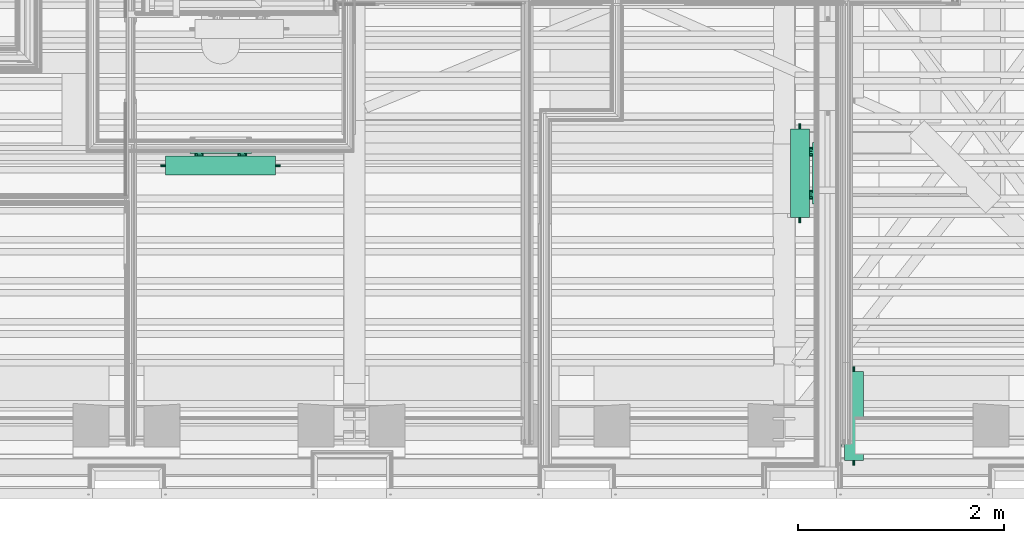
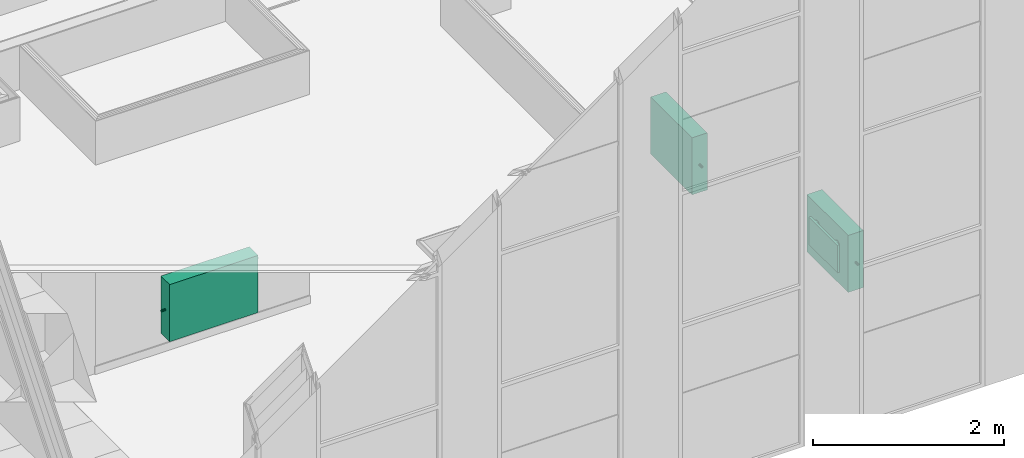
# One storey, part 165 of 183: 3 flow terminals.
"""IFC2X3 building model written with IfcOpenShell, lengths in metres."""

from ifc_helpers import new_model, entity, si_unit, converted_unit, derived_unit, money_unit, direction, frame, origin_with_axes, place, context, subcontext, project, spatial, open_shell, surface_model, material, type_object, element, save


model = new_model("IFC2X3")

# Units and contexts
model_context = context("Model", 3, precision=1e-05, world=origin_with_axes(), true_north=direction((0.0, 1.0)))
body_context = subcontext(model_context, "Body", "Model", "MODEL_VIEW", scale=1.0)
ifc_project = project(units=[si_unit("LENGTHUNIT", "METRE"), si_unit("AREAUNIT", "SQUARE_METRE"), si_unit("VOLUMEUNIT", "CUBIC_METRE"), si_unit("ABSORBEDDOSEUNIT", "GRAY"), si_unit("AMOUNTOFSUBSTANCEUNIT", "MOLE"), si_unit("DOSEEQUIVALENTUNIT", "SIEVERT"), si_unit("ELECTRICCAPACITANCEUNIT", "FARAD"), si_unit("ELECTRICCHARGEUNIT", "COULOMB"), si_unit("ELECTRICCONDUCTANCEUNIT", "SIEMENS"), si_unit("ELECTRICCURRENTUNIT", "AMPERE"), si_unit("ELECTRICRESISTANCEUNIT", "OHM"), si_unit("ELECTRICVOLTAGEUNIT", "VOLT"), si_unit("ENERGYUNIT", "JOULE"), si_unit("FORCEUNIT", "NEWTON"), si_unit("FREQUENCYUNIT", "HERTZ"), si_unit("ILLUMINANCEUNIT", "LUX"), si_unit("INDUCTANCEUNIT", "HENRY"), si_unit("LUMINOUSFLUXUNIT", "LUMEN"), si_unit("LUMINOUSINTENSITYUNIT", "CANDELA"), si_unit("MAGNETICFLUXDENSITYUNIT", "TESLA"), si_unit("MAGNETICFLUXUNIT", "WEBER"), si_unit("MASSUNIT", "GRAM"), converted_unit("PLANEANGLEUNIT", "degree", entity("IfcReal", 0.0174532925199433), si_unit("PLANEANGLEUNIT", "RADIAN"), dimensions=[0, 0, 0, 0, 0, 0, 0]), si_unit("POWERUNIT", "WATT"), si_unit("PRESSUREUNIT", "PASCAL"), si_unit("RADIOACTIVITYUNIT", "BECQUEREL"), si_unit("SOLIDANGLEUNIT", "STERADIAN"), si_unit("THERMODYNAMICTEMPERATUREUNIT", "KELVIN"), si_unit("TIMEUNIT", "SECOND"), derived_unit("ACCELERATIONUNIT", [(si_unit("LENGTHUNIT", "METRE"), 1), (si_unit("TIMEUNIT", "SECOND"), -2)]), derived_unit("ANGULARVELOCITYUNIT", [(converted_unit("PLANEANGLEUNIT", "degree", entity("IfcReal", 0.0174532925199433), si_unit("PLANEANGLEUNIT", "RADIAN"), dimensions=[0, 0, 0, 0, 0, 0, 0]), 1), (si_unit("TIMEUNIT", "SECOND"), -1)]), derived_unit("CURVATUREUNIT", [(converted_unit("PLANEANGLEUNIT", "degree", entity("IfcReal", 0.0174532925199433), si_unit("PLANEANGLEUNIT", "RADIAN"), dimensions=[0, 0, 0, 0, 0, 0, 0]), 1), (si_unit("LENGTHUNIT", "METRE"), -1)]), derived_unit("DYNAMICVISCOSITYUNIT", [(si_unit("PRESSUREUNIT", "PASCAL"), 1), (si_unit("TIMEUNIT", "SECOND"), 1)]), derived_unit("HEATFLUXDENSITYUNIT", [(si_unit("POWERUNIT", "WATT"), 1), (si_unit("LENGTHUNIT", "METRE"), -2)]), derived_unit("HEATINGVALUEUNIT", [(si_unit("ENERGYUNIT", "JOULE"), 1), (si_unit("MASSUNIT", "GRAM"), -1)]), derived_unit("INTEGERCOUNTRATEUNIT", [(si_unit("TIMEUNIT", "SECOND"), -1)]), derived_unit("IONCONCENTRATIONUNIT", [(si_unit("MASSUNIT", "GRAM"), 1), (si_unit("VOLUMEUNIT", "CUBIC_METRE"), -1)]), derived_unit("ISOTHERMALMOISTURECAPACITYUNIT", [(si_unit("VOLUMEUNIT", "CUBIC_METRE"), 1), (si_unit("MASSUNIT", "GRAM"), -1)]), derived_unit("KINEMATICVISCOSITYUNIT", [(si_unit("AREAUNIT", "SQUARE_METRE"), 1), (si_unit("TIMEUNIT", "SECOND"), -1)]), derived_unit("LINEARFORCEUNIT", [(si_unit("FORCEUNIT", "NEWTON"), 1), (si_unit("LENGTHUNIT", "METRE"), -1)]), derived_unit("LINEARMOMENTUNIT", [(si_unit("FORCEUNIT", "NEWTON"), 1), (si_unit("LENGTHUNIT", "METRE"), -1)]), derived_unit("LINEARSTIFFNESSUNIT", [(si_unit("FORCEUNIT", "NEWTON"), 1), (si_unit("LENGTHUNIT", "METRE"), -1)]), derived_unit("LINEARVELOCITYUNIT", [(si_unit("LENGTHUNIT", "METRE"), 1), (si_unit("TIMEUNIT", "SECOND"), -1)]), derived_unit("LUMINOUSINTENSITYDISTRIBUTIONUNIT", [(si_unit("LUMINOUSINTENSITYUNIT", "CANDELA"), 1), (si_unit("LUMINOUSFLUXUNIT", "LUMEN"), -1)]), derived_unit("MASSDENSITYUNIT", [(si_unit("MASSUNIT", "GRAM"), 1), (si_unit("VOLUMEUNIT", "CUBIC_METRE"), -1)]), derived_unit("MASSFLOWRATEUNIT", [(si_unit("MASSUNIT", "GRAM"), 1), (si_unit("TIMEUNIT", "SECOND"), -1)]), derived_unit("MASSPERLENGTHUNIT", [(si_unit("MASSUNIT", "GRAM"), 1), (si_unit("LENGTHUNIT", "METRE"), -1)]), derived_unit("MODULUSOFELASTICITYUNIT", [(si_unit("FORCEUNIT", "NEWTON"), 1), (si_unit("AREAUNIT", "SQUARE_METRE"), -1)]), derived_unit("MODULUSOFLINEARSUBGRADEREACTIONUNIT", [(si_unit("FORCEUNIT", "NEWTON"), 1), (si_unit("LENGTHUNIT", "METRE"), -2)]), derived_unit("MODULUSOFROTATIONALSUBGRADEREACTIONUNIT", [(si_unit("FORCEUNIT", "NEWTON"), 1), (si_unit("LENGTHUNIT", "METRE"), 1)]), derived_unit("MODULUSOFSUBGRADEREACTIONUNIT", [(si_unit("FORCEUNIT", "NEWTON"), 1), (si_unit("VOLUMEUNIT", "CUBIC_METRE"), -1)]), derived_unit("MOISTUREDIFFUSIVITYUNIT", [(si_unit("VOLUMEUNIT", "CUBIC_METRE"), 1), (si_unit("TIMEUNIT", "SECOND"), -1)]), derived_unit("MOLECULARWEIGHTUNIT", [(si_unit("MASSUNIT", "GRAM"), 1), (si_unit("AMOUNTOFSUBSTANCEUNIT", "MOLE"), -1)]), derived_unit("PLANARFORCEUNIT", [(si_unit("FORCEUNIT", "NEWTON"), 1), (si_unit("LENGTHUNIT", "METRE"), -2)]), derived_unit("ROTATIONALFREQUENCYUNIT", [(si_unit("TIMEUNIT", "SECOND"), -1)]), derived_unit("ROTATIONALMASSUNIT", [(si_unit("MASSUNIT", "GRAM"), 1), (si_unit("LENGTHUNIT", "METRE"), 2)]), derived_unit("ROTATIONALSTIFFNESSUNIT", [(si_unit("FORCEUNIT", "NEWTON"), 1), (si_unit("LENGTHUNIT", "METRE"), 1), (converted_unit("PLANEANGLEUNIT", "degree", entity("IfcReal", 0.0174532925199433), si_unit("PLANEANGLEUNIT", "RADIAN"), dimensions=[0, 0, 0, 0, 0, 0, 0]), -1)]), derived_unit("SECTIONAREAINTEGRALUNIT", [(si_unit("LENGTHUNIT", "METRE"), 5)]), derived_unit("SECTIONMODULUSUNIT", [(si_unit("LENGTHUNIT", "METRE"), 3)]), derived_unit("SHEARMODULUSUNIT", [(si_unit("FORCEUNIT", "NEWTON"), 1), (si_unit("AREAUNIT", "SQUARE_METRE"), -1)]), derived_unit("SOUNDPOWERUNIT", [(si_unit("ENERGYUNIT", "JOULE"), 1), (si_unit("TIMEUNIT", "SECOND"), -1)]), derived_unit("SPECIFICHEATCAPACITYUNIT", [(si_unit("FORCEUNIT", "NEWTON"), 1), (si_unit("MASSUNIT", "GRAM"), -1), (si_unit("THERMODYNAMICTEMPERATUREUNIT", "KELVIN"), -1)]), derived_unit("TEMPERATUREGRADIENTUNIT", [(si_unit("THERMODYNAMICTEMPERATUREUNIT", "KELVIN"), 1), (si_unit("LENGTHUNIT", "METRE"), -1)]), derived_unit("THERMALADMITTANCEUNIT", [(si_unit("POWERUNIT", "WATT"), 1), (si_unit("AREAUNIT", "SQUARE_METRE"), -1), (si_unit("THERMODYNAMICTEMPERATUREUNIT", "KELVIN"), -1)]), derived_unit("THERMALCONDUCTANCEUNIT", [(si_unit("POWERUNIT", "WATT"), 1), (si_unit("LENGTHUNIT", "METRE"), -1), (si_unit("THERMODYNAMICTEMPERATUREUNIT", "KELVIN"), -1)]), derived_unit("THERMALEXPANSIONCOEFFICIENTUNIT", [(si_unit("THERMODYNAMICTEMPERATUREUNIT", "KELVIN"), -1)]), derived_unit("THERMALRESISTANCEUNIT", [(si_unit("AREAUNIT", "SQUARE_METRE"), 1), (si_unit("POWERUNIT", "WATT"), -1)]), derived_unit("THERMALTRANSMITTANCEUNIT", [(si_unit("POWERUNIT", "WATT"), 1), (si_unit("AREAUNIT", "SQUARE_METRE"), -1), (si_unit("THERMODYNAMICTEMPERATUREUNIT", "KELVIN"), -1)]), derived_unit("TORQUEUNIT", [(si_unit("FORCEUNIT", "NEWTON"), 1), (si_unit("LENGTHUNIT", "METRE"), 1)]), derived_unit("VAPORPERMEABILITYUNIT", [(si_unit("MASSUNIT", "GRAM"), 1), (si_unit("TIMEUNIT", "SECOND"), -1)]), derived_unit("VOLUMETRICFLOWRATEUNIT", [(si_unit("VOLUMEUNIT", "CUBIC_METRE"), 1), (si_unit("TIMEUNIT", "SECOND"), -1)]), derived_unit("WARPINGCONSTANTUNIT", [(si_unit("LENGTHUNIT", "METRE"), 6)]), derived_unit("WARPINGMOMENTUNIT", [(si_unit("FORCEUNIT", "NEWTON"), 1), (si_unit("LENGTHUNIT", "METRE"), 2)]), money_unit("GBP")], contexts=[model_context])

# Site, building, storey, space
site_placement = place(None, origin_with_axes())
site = spatial("IfcSite", under=ifc_project, at=site_placement, Name="Site", CompositionType="ELEMENT")
building_placement = place(site_placement, origin_with_axes())
building = spatial("IfcBuilding", under=site, at=building_placement, Name="Building01", CompositionType="ELEMENT")
storey_placement = place(building_placement, frame((0.0, 0.0, 5.15), z_axis=(0.0, 0.0, 1.0), x_axis=(1.0, 0.0, 0.0)))
storey = spatial("IfcBuildingStorey", under=building, at=storey_placement, Name="1F", CompositionType="ELEMENT", Elevation=5.15)
space_1_placement = place(storey_placement, frame((20.122661, 7.155, 0.017975), z_axis=(0.0, 0.0, 1.0), x_axis=(0.0, -1.0, 0.0)))
space_1 = spatial("IfcSpace", under=storey, at=space_1_placement, Name="studio", CompositionType="ELEMENT", InteriorOrExteriorSpace="NOTDEFINED")

# Flow terminal
ifc_material = material(Name="M_BSUK_Ventilation")
space_heater_type = type_object("IfcSpaceHeaterType", Name="M-BmvRadiatorpanel-Panel", PredefinedType="NOTDEFINED")
flow_terminal_1_placement = place(storey_placement, frame((22.77025, 0.371927, 0.665), z_axis=(0.0, 0.0, 1.0), x_axis=(0.0, 1.0, 0.0)))
element("IfcFlowTerminal", 1, at=flow_terminal_1_placement, inside=space_1, type_object=space_heater_type, material=ifc_material, Name="M-BmvRadiatorpanel-Panel", ObjectType="M-BmvRadiatorpanel-Panel", context=body_context, shape_type="SurfaceModel", body=[
    surface_model("IfcShellBasedSurfaceModel", [(0.865, -0.0925, 0.365), (0.865, 0.0925, 0.365), (0.0, 0.0925, 0.365), (0.0, -0.0925, 0.365), (0.865, -0.0925, -0.365), (0.865, 0.0925, -0.365), (0.0, -0.0925, -0.365), (0.0, 0.0925, -0.365), (0.1325, 0.12025, 0.175), (0.7325, 0.12025, 0.175), (0.7325, 0.14525, 0.175), (0.1325, 0.14525, 0.175), (0.7325, 0.14525, -0.175), (0.1325, 0.14525, -0.175), (0.7325, 0.12025, -0.175), (0.1325, 0.12025, -0.175), (0.2225, 0.0925, 0.0775), (0.2225, 0.12025, 0.0775), (0.239721, 0.12025, 0.080925), (0.239721, 0.0925, 0.080925), (0.25432, 0.12025, 0.09068), (0.25432, 0.0925, 0.09068), (0.264075, 0.12025, 0.105279), (0.264075, 0.0925, 0.105279), (0.2675, 0.12025, 0.1225), (0.2675, 0.0925, 0.1225), (0.264075, 0.12025, 0.139721), (0.264075, 0.0925, 0.139721), (0.25432, 0.12025, 0.15432), (0.25432, 0.0925, 0.15432), (0.239721, 0.12025, 0.164075), (0.239721, 0.0925, 0.164075), (0.2225, 0.12025, 0.1675), (0.2225, 0.0925, 0.1675), (0.205279, 0.12025, 0.164075), (0.205279, 0.0925, 0.164075), (0.19068, 0.12025, 0.15432), (0.19068, 0.0925, 0.15432), (0.180925, 0.12025, 0.139721), (0.180925, 0.0925, 0.139721), (0.1775, 0.12025, 0.1225), (0.1775, 0.0925, 0.1225), (0.180925, 0.12025, 0.105279), (0.180925, 0.0925, 0.105279), (0.19068, 0.12025, 0.09068), (0.19068, 0.0925, 0.09068), (0.205279, 0.12025, 0.080925), (0.205279, 0.0925, 0.080925), (0.6425, 0.0925, 0.0775), (0.6425, 0.12025, 0.0775), (0.659721, 0.12025, 0.080925), (0.659721, 0.0925, 0.080925), (0.67432, 0.12025, 0.09068), (0.67432, 0.0925, 0.09068), (0.684075, 0.12025, 0.105279), (0.684075, 0.0925, 0.105279), (0.6875, 0.12025, 0.1225), (0.6875, 0.0925, 0.1225), (0.684075, 0.12025, 0.139721), (0.684075, 0.0925, 0.139721), (0.67432, 0.12025, 0.15432), (0.67432, 0.0925, 0.15432), (0.659721, 0.12025, 0.164075), (0.659721, 0.0925, 0.164075), (0.6425, 0.12025, 0.1675), (0.6425, 0.0925, 0.1675), (0.625279, 0.12025, 0.164075), (0.625279, 0.0925, 0.164075), (0.61068, 0.12025, 0.15432), (0.61068, 0.0925, 0.15432), (0.600925, 0.12025, 0.139721), (0.600925, 0.0925, 0.139721), (0.5975, 0.12025, 0.1225), (0.5975, 0.0925, 0.1225), (0.600925, 0.12025, 0.105279), (0.600925, 0.0925, 0.105279), (0.61068, 0.12025, 0.09068), (0.61068, 0.0925, 0.09068), (0.625279, 0.12025, 0.080925), (0.625279, 0.0925, 0.080925), (-0.05, 0.0, -0.0225), (0.0, 0.0, -0.0225), (0.0, -0.004784, -0.021548), (-0.05, -0.004784, -0.021548), (0.0, -0.008839, -0.018839), (-0.05, -0.008839, -0.018839), (0.0, -0.011548, -0.014784), (-0.05, -0.011548, -0.014784), (0.0, -0.0125, -0.01), (-0.05, -0.0125, -0.01), (0.0, -0.011548, -0.005216), (-0.05, -0.011548, -0.005216), (0.0, -0.008839, -0.001161), (-0.05, -0.008839, -0.001161), (0.0, -0.004784, 0.001548), (-0.05, -0.004784, 0.001548), (0.0, 0.0, 0.0025), (-0.05, 0.0, 0.0025), (0.0, 0.004784, 0.001548), (-0.05, 0.004784, 0.001548), (0.0, 0.008839, -0.001161), (-0.05, 0.008839, -0.001161), (0.0, 0.011548, -0.005216), (-0.05, 0.011548, -0.005216), (0.0, 0.0125, -0.01), (-0.05, 0.0125, -0.01), (0.0, 0.011548, -0.014784), (-0.05, 0.011548, -0.014784), (0.0, 0.008839, -0.018839), (-0.05, 0.008839, -0.018839), (0.0, 0.004784, -0.021548), (-0.05, 0.004784, -0.021548), (0.915, 0.0, 0.2525), (0.865, 0.0, 0.2525), (0.865, 0.004784, 0.253452), (0.915, 0.004784, 0.253452), (0.865, 0.008839, 0.256161), (0.915, 0.008839, 0.256161), (0.865, 0.011548, 0.260216), (0.915, 0.011548, 0.260216), (0.865, 0.0125, 0.265), (0.915, 0.0125, 0.265), (0.865, 0.011548, 0.269784), (0.915, 0.011548, 0.269784), (0.865, 0.008839, 0.273839), (0.915, 0.008839, 0.273839), (0.865, 0.004784, 0.276548), (0.915, 0.004784, 0.276548), (0.865, 0.0, 0.2775), (0.915, 0.0, 0.2775), (0.865, -0.004784, 0.276548), (0.915, -0.004784, 0.276548), (0.865, -0.008839, 0.273839), (0.915, -0.008839, 0.273839), (0.865, -0.011548, 0.269784), (0.915, -0.011548, 0.269784), (0.865, -0.0125, 0.265), (0.915, -0.0125, 0.265), (0.865, -0.011548, 0.260216), (0.915, -0.011548, 0.260216), (0.865, -0.008839, 0.256161), (0.915, -0.008839, 0.256161), (0.865, -0.004784, 0.253452), (0.915, -0.004784, 0.253452)], [open_shell([[[0, 1, 2, 3]], [[4, 5, 1, 0]], [[6, 7, 5, 4]], [[3, 2, 7, 6]], [[1, 5, 7, 2]], [[3, 6, 4, 0]], [[8, 9, 10, 11]], [[11, 10, 12, 13]], [[13, 12, 14, 15]], [[15, 14, 9, 8]], [[9, 14, 12, 10]], [[11, 13, 15, 8]], [[16, 17, 18, 19]], [[19, 18, 20, 21]], [[21, 20, 22, 23]], [[23, 22, 24, 25]], [[25, 24, 26, 27]], [[27, 26, 28, 29]], [[29, 28, 30, 31]], [[31, 30, 32, 33]], [[33, 32, 34, 35]], [[35, 34, 36, 37]], [[37, 36, 38, 39]], [[39, 38, 40, 41]], [[41, 40, 42, 43]], [[43, 42, 44, 45]], [[45, 44, 46, 47]], [[47, 46, 17, 16]], [[48, 49, 50, 51]], [[51, 50, 52, 53]], [[53, 52, 54, 55]], [[55, 54, 56, 57]], [[57, 56, 58, 59]], [[59, 58, 60, 61]], [[61, 60, 62, 63]], [[63, 62, 64, 65]], [[65, 64, 66, 67]], [[67, 66, 68, 69]], [[69, 68, 70, 71]], [[71, 70, 72, 73]], [[73, 72, 74, 75]], [[75, 74, 76, 77]], [[77, 76, 78, 79]], [[79, 78, 49, 48]], [[80, 81, 82, 83]], [[83, 82, 84, 85]], [[85, 84, 86, 87]], [[87, 86, 88, 89]], [[89, 88, 90, 91]], [[91, 90, 92, 93]], [[93, 92, 94, 95]], [[95, 94, 96, 97]], [[97, 96, 98, 99]], [[99, 98, 100, 101]], [[101, 100, 102, 103]], [[103, 102, 104, 105]], [[105, 104, 106, 107]], [[107, 106, 108, 109]], [[109, 108, 110, 111]], [[111, 110, 81, 80]], [[112, 113, 114, 115]], [[115, 114, 116, 117]], [[117, 116, 118, 119]], [[119, 118, 120, 121]], [[121, 120, 122, 123]], [[123, 122, 124, 125]], [[125, 124, 126, 127]], [[127, 126, 128, 129]], [[129, 128, 130, 131]], [[131, 130, 132, 133]], [[133, 132, 134, 135]], [[135, 134, 136, 137]], [[137, 136, 138, 139]], [[139, 138, 140, 141]], [[141, 140, 142, 143]], [[143, 142, 113, 112]]])]),
])

# Space
space_2_placement = place(storey_placement, frame((20.51, 3.685, 0.017975), z_axis=(0.0, 0.0, 1.0), x_axis=(-1.0, 0.0, 0.0)))
space_2 = spatial("IfcSpace", under=storey, at=space_2_placement, Name="bed", CompositionType="ELEMENT", InteriorOrExteriorSpace="NOTDEFINED")

# Flow terminal
flow_terminal_2_placement = place(storey_placement, frame((22.24475, 2.7335, 0.665), z_axis=(0.0, 0.0, 1.0), x_axis=(0.0, -1.0, 0.0)))
element("IfcFlowTerminal", 2, at=flow_terminal_2_placement, inside=space_2, type_object=space_heater_type, material=ifc_material, Name="M-BmvRadiatorpanel-Panel", ObjectType="M-BmvRadiatorpanel-Panel", context=body_context, shape_type="SurfaceModel", body=[
    surface_model("IfcShellBasedSurfaceModel", [(-0.865, -0.0925, 0.365), (-0.865, 0.0925, 0.365), (0.0, 0.0925, 0.365), (0.0, -0.0925, 0.365), (-0.865, -0.0925, -0.365), (-0.865, 0.0925, -0.365), (0.0, -0.0925, -0.365), (0.0, 0.0925, -0.365), (-0.1325, 0.12025, 0.175), (-0.7325, 0.12025, 0.175), (-0.7325, 0.14525, 0.175), (-0.1325, 0.14525, 0.175), (-0.7325, 0.14525, -0.175), (-0.1325, 0.14525, -0.175), (-0.7325, 0.12025, -0.175), (-0.1325, 0.12025, -0.175), (-0.2225, 0.0925, 0.0775), (-0.2225, 0.12025, 0.0775), (-0.205279, 0.12025, 0.080925), (-0.205279, 0.0925, 0.080925), (-0.19068, 0.12025, 0.09068), (-0.19068, 0.0925, 0.09068), (-0.180925, 0.12025, 0.105279), (-0.180925, 0.0925, 0.105279), (-0.1775, 0.12025, 0.1225), (-0.1775, 0.0925, 0.1225), (-0.180925, 0.12025, 0.139721), (-0.180925, 0.0925, 0.139721), (-0.19068, 0.12025, 0.15432), (-0.19068, 0.0925, 0.15432), (-0.205279, 0.12025, 0.164075), (-0.205279, 0.0925, 0.164075), (-0.2225, 0.12025, 0.1675), (-0.2225, 0.0925, 0.1675), (-0.239721, 0.12025, 0.164075), (-0.239721, 0.0925, 0.164075), (-0.25432, 0.12025, 0.15432), (-0.25432, 0.0925, 0.15432), (-0.264075, 0.12025, 0.139721), (-0.264075, 0.0925, 0.139721), (-0.2675, 0.12025, 0.1225), (-0.2675, 0.0925, 0.1225), (-0.264075, 0.12025, 0.105279), (-0.264075, 0.0925, 0.105279), (-0.25432, 0.12025, 0.09068), (-0.25432, 0.0925, 0.09068), (-0.239721, 0.12025, 0.080925), (-0.239721, 0.0925, 0.080925), (-0.6425, 0.0925, 0.0775), (-0.6425, 0.12025, 0.0775), (-0.625279, 0.12025, 0.080925), (-0.625279, 0.0925, 0.080925), (-0.61068, 0.12025, 0.09068), (-0.61068, 0.0925, 0.09068), (-0.600925, 0.12025, 0.105279), (-0.600925, 0.0925, 0.105279), (-0.5975, 0.12025, 0.1225), (-0.5975, 0.0925, 0.1225), (-0.600925, 0.12025, 0.139721), (-0.600925, 0.0925, 0.139721), (-0.61068, 0.12025, 0.15432), (-0.61068, 0.0925, 0.15432), (-0.625279, 0.12025, 0.164075), (-0.625279, 0.0925, 0.164075), (-0.6425, 0.12025, 0.1675), (-0.6425, 0.0925, 0.1675), (-0.659721, 0.12025, 0.164075), (-0.659721, 0.0925, 0.164075), (-0.67432, 0.12025, 0.15432), (-0.67432, 0.0925, 0.15432), (-0.684075, 0.12025, 0.139721), (-0.684075, 0.0925, 0.139721), (-0.6875, 0.12025, 0.1225), (-0.6875, 0.0925, 0.1225), (-0.684075, 0.12025, 0.105279), (-0.684075, 0.0925, 0.105279), (-0.67432, 0.12025, 0.09068), (-0.67432, 0.0925, 0.09068), (-0.659721, 0.12025, 0.080925), (-0.659721, 0.0925, 0.080925), (0.05, 0.0, -0.0225), (0.0, 0.0, -0.0225), (0.0, 0.004784, -0.021548), (0.05, 0.004784, -0.021548), (0.0, 0.008839, -0.018839), (0.05, 0.008839, -0.018839), (0.0, 0.011548, -0.014784), (0.05, 0.011548, -0.014784), (0.0, 0.0125, -0.01), (0.05, 0.0125, -0.01), (0.0, 0.011548, -0.005216), (0.05, 0.011548, -0.005216), (0.0, 0.008839, -0.001161), (0.05, 0.008839, -0.001161), (0.0, 0.004784, 0.001548), (0.05, 0.004784, 0.001548), (0.0, 0.0, 0.0025), (0.05, 0.0, 0.0025), (0.0, -0.004784, 0.001548), (0.05, -0.004784, 0.001548), (0.0, -0.008839, -0.001161), (0.05, -0.008839, -0.001161), (0.0, -0.011548, -0.005216), (0.05, -0.011548, -0.005216), (0.0, -0.0125, -0.01), (0.05, -0.0125, -0.01), (0.0, -0.011548, -0.014784), (0.05, -0.011548, -0.014784), (0.0, -0.008839, -0.018839), (0.05, -0.008839, -0.018839), (0.0, -0.004784, -0.021548), (0.05, -0.004784, -0.021548), (-0.915, 0.0, 0.2525), (-0.865, 0.0, 0.2525), (-0.865, -0.004784, 0.253452), (-0.915, -0.004784, 0.253452), (-0.865, -0.008839, 0.256161), (-0.915, -0.008839, 0.256161), (-0.865, -0.011548, 0.260216), (-0.915, -0.011548, 0.260216), (-0.865, -0.0125, 0.265), (-0.915, -0.0125, 0.265), (-0.865, -0.011548, 0.269784), (-0.915, -0.011548, 0.269784), (-0.865, -0.008839, 0.273839), (-0.915, -0.008839, 0.273839), (-0.865, -0.004784, 0.276548), (-0.915, -0.004784, 0.276548), (-0.865, 0.0, 0.2775), (-0.915, 0.0, 0.2775), (-0.865, 0.004784, 0.276548), (-0.915, 0.004784, 0.276548), (-0.865, 0.008839, 0.273839), (-0.915, 0.008839, 0.273839), (-0.865, 0.011548, 0.269784), (-0.915, 0.011548, 0.269784), (-0.865, 0.0125, 0.265), (-0.915, 0.0125, 0.265), (-0.865, 0.011548, 0.260216), (-0.915, 0.011548, 0.260216), (-0.865, 0.008839, 0.256161), (-0.915, 0.008839, 0.256161), (-0.865, 0.004784, 0.253452), (-0.915, 0.004784, 0.253452)], [open_shell([[[0, 1, 2, 3]], [[4, 5, 1, 0]], [[6, 7, 5, 4]], [[3, 2, 7, 6]], [[1, 5, 7, 2]], [[3, 6, 4, 0]], [[8, 9, 10, 11]], [[11, 10, 12, 13]], [[13, 12, 14, 15]], [[15, 14, 9, 8]], [[9, 14, 12, 10]], [[11, 13, 15, 8]], [[16, 17, 18, 19]], [[19, 18, 20, 21]], [[21, 20, 22, 23]], [[23, 22, 24, 25]], [[25, 24, 26, 27]], [[27, 26, 28, 29]], [[29, 28, 30, 31]], [[31, 30, 32, 33]], [[33, 32, 34, 35]], [[35, 34, 36, 37]], [[37, 36, 38, 39]], [[39, 38, 40, 41]], [[41, 40, 42, 43]], [[43, 42, 44, 45]], [[45, 44, 46, 47]], [[47, 46, 17, 16]], [[48, 49, 50, 51]], [[51, 50, 52, 53]], [[53, 52, 54, 55]], [[55, 54, 56, 57]], [[57, 56, 58, 59]], [[59, 58, 60, 61]], [[61, 60, 62, 63]], [[63, 62, 64, 65]], [[65, 64, 66, 67]], [[67, 66, 68, 69]], [[69, 68, 70, 71]], [[71, 70, 72, 73]], [[73, 72, 74, 75]], [[75, 74, 76, 77]], [[77, 76, 78, 79]], [[79, 78, 49, 48]], [[80, 81, 82, 83]], [[83, 82, 84, 85]], [[85, 84, 86, 87]], [[87, 86, 88, 89]], [[89, 88, 90, 91]], [[91, 90, 92, 93]], [[93, 92, 94, 95]], [[95, 94, 96, 97]], [[97, 96, 98, 99]], [[99, 98, 100, 101]], [[101, 100, 102, 103]], [[103, 102, 104, 105]], [[105, 104, 106, 107]], [[107, 106, 108, 109]], [[109, 108, 110, 111]], [[111, 110, 81, 80]], [[112, 113, 114, 115]], [[115, 114, 116, 117]], [[117, 116, 118, 119]], [[119, 118, 120, 121]], [[121, 120, 122, 123]], [[123, 122, 124, 125]], [[125, 124, 126, 127]], [[127, 126, 128, 129]], [[129, 128, 130, 131]], [[131, 130, 132, 133]], [[133, 132, 134, 135]], [[135, 134, 136, 137]], [[137, 136, 138, 139]], [[139, 138, 140, 141]], [[141, 140, 142, 143]], [[143, 142, 113, 112]]])]),
])

# Space
space_3_placement = place(storey_placement, frame((14.85, 4.98, 0.017975), z_axis=(0.0, 0.0, 1.0), x_axis=(0.0, -1.0, 0.0)))
space_3 = spatial("IfcSpace", under=storey, at=space_3_placement, Name="04", CompositionType="ELEMENT", InteriorOrExteriorSpace="NOTDEFINED")

# Flow terminal
flow_terminal_3_placement = place(storey_placement, frame((16.072964, 3.23975, 0.665), z_axis=(0.0, 0.0, 1.0), x_axis=(1.0, 0.0, 0.0)))
element("IfcFlowTerminal", 3, at=flow_terminal_3_placement, inside=space_3, type_object=space_heater_type, material=ifc_material, Name="M-BmvRadiatorpanel-Panel", ObjectType="M-BmvRadiatorpanel-Panel", context=body_context, shape_type="SurfaceModel", body=[
    surface_model("IfcShellBasedSurfaceModel", [(1.069, -0.0925, 0.365), (1.069, 0.0925, 0.365), (0.0, 0.0925, 0.365), (0.0, -0.0925, 0.365), (1.069, -0.0925, -0.365), (1.069, 0.0925, -0.365), (0.0, -0.0925, -0.365), (0.0, 0.0925, -0.365), (0.2345, 0.12025, 0.175), (0.8345, 0.12025, 0.175), (0.8345, 0.14525, 0.175), (0.2345, 0.14525, 0.175), (0.8345, 0.14525, -0.175), (0.2345, 0.14525, -0.175), (0.8345, 0.12025, -0.175), (0.2345, 0.12025, -0.175), (0.3245, 0.0925, 0.0775), (0.3245, 0.12025, 0.0775), (0.341721, 0.12025, 0.080925), (0.341721, 0.0925, 0.080925), (0.35632, 0.12025, 0.09068), (0.35632, 0.0925, 0.09068), (0.366075, 0.12025, 0.105279), (0.366075, 0.0925, 0.105279), (0.3695, 0.12025, 0.1225), (0.3695, 0.0925, 0.1225), (0.366075, 0.12025, 0.139721), (0.366075, 0.0925, 0.139721), (0.35632, 0.12025, 0.15432), (0.35632, 0.0925, 0.15432), (0.341721, 0.12025, 0.164075), (0.341721, 0.0925, 0.164075), (0.3245, 0.12025, 0.1675), (0.3245, 0.0925, 0.1675), (0.307279, 0.12025, 0.164075), (0.307279, 0.0925, 0.164075), (0.29268, 0.12025, 0.15432), (0.29268, 0.0925, 0.15432), (0.282925, 0.12025, 0.139721), (0.282925, 0.0925, 0.139721), (0.2795, 0.12025, 0.1225), (0.2795, 0.0925, 0.1225), (0.282925, 0.12025, 0.105279), (0.282925, 0.0925, 0.105279), (0.29268, 0.12025, 0.09068), (0.29268, 0.0925, 0.09068), (0.307279, 0.12025, 0.080925), (0.307279, 0.0925, 0.080925), (0.7445, 0.0925, 0.0775), (0.7445, 0.12025, 0.0775), (0.761721, 0.12025, 0.080925), (0.761721, 0.0925, 0.080925), (0.77632, 0.12025, 0.09068), (0.77632, 0.0925, 0.09068), (0.786075, 0.12025, 0.105279), (0.786075, 0.0925, 0.105279), (0.7895, 0.12025, 0.1225), (0.7895, 0.0925, 0.1225), (0.786075, 0.12025, 0.139721), (0.786075, 0.0925, 0.139721), (0.77632, 0.12025, 0.15432), (0.77632, 0.0925, 0.15432), (0.761721, 0.12025, 0.164075), (0.761721, 0.0925, 0.164075), (0.7445, 0.12025, 0.1675), (0.7445, 0.0925, 0.1675), (0.727279, 0.12025, 0.164075), (0.727279, 0.0925, 0.164075), (0.71268, 0.12025, 0.15432), (0.71268, 0.0925, 0.15432), (0.702925, 0.12025, 0.139721), (0.702925, 0.0925, 0.139721), (0.6995, 0.12025, 0.1225), (0.6995, 0.0925, 0.1225), (0.702925, 0.12025, 0.105279), (0.702925, 0.0925, 0.105279), (0.71268, 0.12025, 0.09068), (0.71268, 0.0925, 0.09068), (0.727279, 0.12025, 0.080925), (0.727279, 0.0925, 0.080925), (-0.05, 0.0, -0.0225), (0.0, 0.0, -0.0225), (0.0, -0.004784, -0.021548), (-0.05, -0.004784, -0.021548), (0.0, -0.008839, -0.018839), (-0.05, -0.008839, -0.018839), (0.0, -0.011548, -0.014784), (-0.05, -0.011548, -0.014784), (0.0, -0.0125, -0.01), (-0.05, -0.0125, -0.01), (0.0, -0.011548, -0.005216), (-0.05, -0.011548, -0.005216), (0.0, -0.008839, -0.001161), (-0.05, -0.008839, -0.001161), (0.0, -0.004784, 0.001548), (-0.05, -0.004784, 0.001548), (0.0, 0.0, 0.0025), (-0.05, 0.0, 0.0025), (0.0, 0.004784, 0.001548), (-0.05, 0.004784, 0.001548), (0.0, 0.008839, -0.001161), (-0.05, 0.008839, -0.001161), (0.0, 0.011548, -0.005216), (-0.05, 0.011548, -0.005216), (0.0, 0.0125, -0.01), (-0.05, 0.0125, -0.01), (0.0, 0.011548, -0.014784), (-0.05, 0.011548, -0.014784), (0.0, 0.008839, -0.018839), (-0.05, 0.008839, -0.018839), (0.0, 0.004784, -0.021548), (-0.05, 0.004784, -0.021548), (1.119, 0.0, 0.2525), (1.069, 0.0, 0.2525), (1.069, 0.004784, 0.253452), (1.119, 0.004784, 0.253452), (1.069, 0.008839, 0.256161), (1.119, 0.008839, 0.256161), (1.069, 0.011548, 0.260216), (1.119, 0.011548, 0.260216), (1.069, 0.0125, 0.265), (1.119, 0.0125, 0.265), (1.069, 0.011548, 0.269784), (1.119, 0.011548, 0.269784), (1.069, 0.008839, 0.273839), (1.119, 0.008839, 0.273839), (1.069, 0.004784, 0.276548), (1.119, 0.004784, 0.276548), (1.069, 0.0, 0.2775), (1.119, 0.0, 0.2775), (1.069, -0.004784, 0.276548), (1.119, -0.004784, 0.276548), (1.069, -0.008839, 0.273839), (1.119, -0.008839, 0.273839), (1.069, -0.011548, 0.269784), (1.119, -0.011548, 0.269784), (1.069, -0.0125, 0.265), (1.119, -0.0125, 0.265), (1.069, -0.011548, 0.260216), (1.119, -0.011548, 0.260216), (1.069, -0.008839, 0.256161), (1.119, -0.008839, 0.256161), (1.069, -0.004784, 0.253452), (1.119, -0.004784, 0.253452)], [open_shell([[[0, 1, 2, 3]], [[4, 5, 1, 0]], [[6, 7, 5, 4]], [[3, 2, 7, 6]], [[1, 5, 7, 2]], [[3, 6, 4, 0]], [[8, 9, 10, 11]], [[11, 10, 12, 13]], [[13, 12, 14, 15]], [[15, 14, 9, 8]], [[9, 14, 12, 10]], [[11, 13, 15, 8]], [[16, 17, 18, 19]], [[19, 18, 20, 21]], [[21, 20, 22, 23]], [[23, 22, 24, 25]], [[25, 24, 26, 27]], [[27, 26, 28, 29]], [[29, 28, 30, 31]], [[31, 30, 32, 33]], [[33, 32, 34, 35]], [[35, 34, 36, 37]], [[37, 36, 38, 39]], [[39, 38, 40, 41]], [[41, 40, 42, 43]], [[43, 42, 44, 45]], [[45, 44, 46, 47]], [[47, 46, 17, 16]], [[48, 49, 50, 51]], [[51, 50, 52, 53]], [[53, 52, 54, 55]], [[55, 54, 56, 57]], [[57, 56, 58, 59]], [[59, 58, 60, 61]], [[61, 60, 62, 63]], [[63, 62, 64, 65]], [[65, 64, 66, 67]], [[67, 66, 68, 69]], [[69, 68, 70, 71]], [[71, 70, 72, 73]], [[73, 72, 74, 75]], [[75, 74, 76, 77]], [[77, 76, 78, 79]], [[79, 78, 49, 48]], [[80, 81, 82, 83]], [[83, 82, 84, 85]], [[85, 84, 86, 87]], [[87, 86, 88, 89]], [[89, 88, 90, 91]], [[91, 90, 92, 93]], [[93, 92, 94, 95]], [[95, 94, 96, 97]], [[97, 96, 98, 99]], [[99, 98, 100, 101]], [[101, 100, 102, 103]], [[103, 102, 104, 105]], [[105, 104, 106, 107]], [[107, 106, 108, 109]], [[109, 108, 110, 111]], [[111, 110, 81, 80]], [[112, 113, 114, 115]], [[115, 114, 116, 117]], [[117, 116, 118, 119]], [[119, 118, 120, 121]], [[121, 120, 122, 123]], [[123, 122, 124, 125]], [[125, 124, 126, 127]], [[127, 126, 128, 129]], [[129, 128, 130, 131]], [[131, 130, 132, 133]], [[133, 132, 134, 135]], [[135, 134, 136, 137]], [[137, 136, 138, 139]], [[139, 138, 140, 141]], [[141, 140, 142, 143]], [[143, 142, 113, 112]]])]),
])

save(model, "model.ifc")
